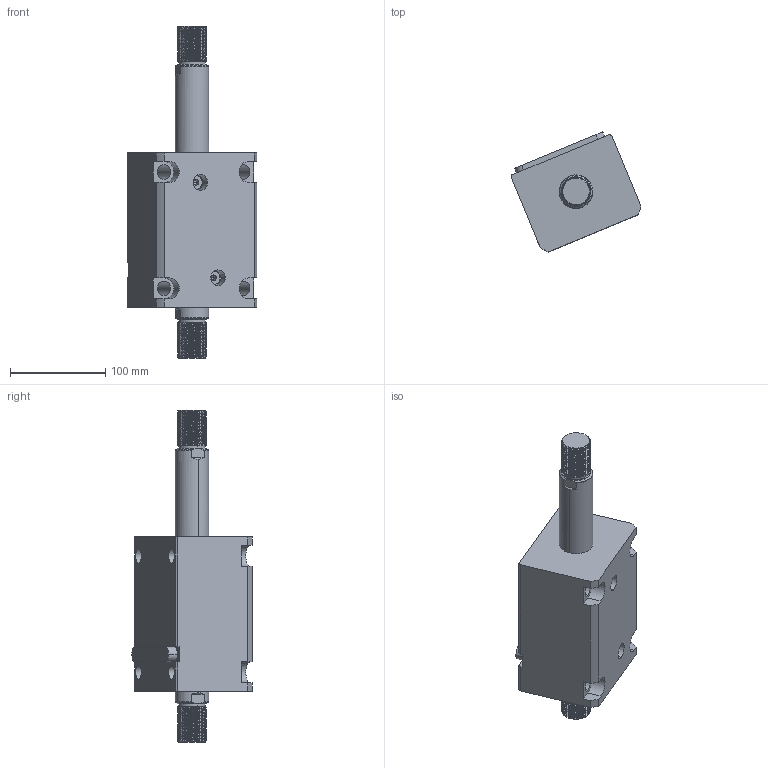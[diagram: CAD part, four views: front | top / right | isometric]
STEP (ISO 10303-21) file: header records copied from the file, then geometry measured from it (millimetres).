
FILE_DESCRIPTION (( 'STEP AP214' ), '1' );
FILE_NAME ('chtb-lw63x80w_asm.STEP', '2018-05-18T08:51:41', ( 'Windows' ), ( 'Microsoft' ), 'SwSTEP 2.0', 'SolidWorks 2015', '' );
FILE_SCHEMA (( 'AUTOMOTIVE_DESIGN' ));
Length unit declared in the file: millimetre
Products named in the file (5): CHTB-SW63X80WHSG; CHTB-LW63X80NBT; CHTB-LA63PJ; CHTB-63QG; chtb-lw63x80w_asm
Assembly tree (4 placements, depth 2):
  chtb-lw63x80w_asm
    CHTB-63QG
    CHTB-LA63PJ
    CHTB-LW63X80NBT
    CHTB-SW63X80WHSG
Bounding box: 135.77 x 126.06 x 348 mm (x, y, z)
Volume: 1544190.7 mm3; surface area: 205306.7 mm2
Topology: 4 solids, 4 shells, 306 faces, 889 edges, 601 vertices
Faces by surface type: cylinder 204, plane 58, bspline 16, cone 16, torus 12
Entity records: 27878 total; most frequent: CARTESIAN_POINT 20531, ORIENTED_EDGE 1770, DIRECTION 1228, EDGE_CURVE 885, VERTEX_POINT 601, AXIS2_PLACEMENT_3D 458, EDGE_LOOP 336, VECTOR 312
